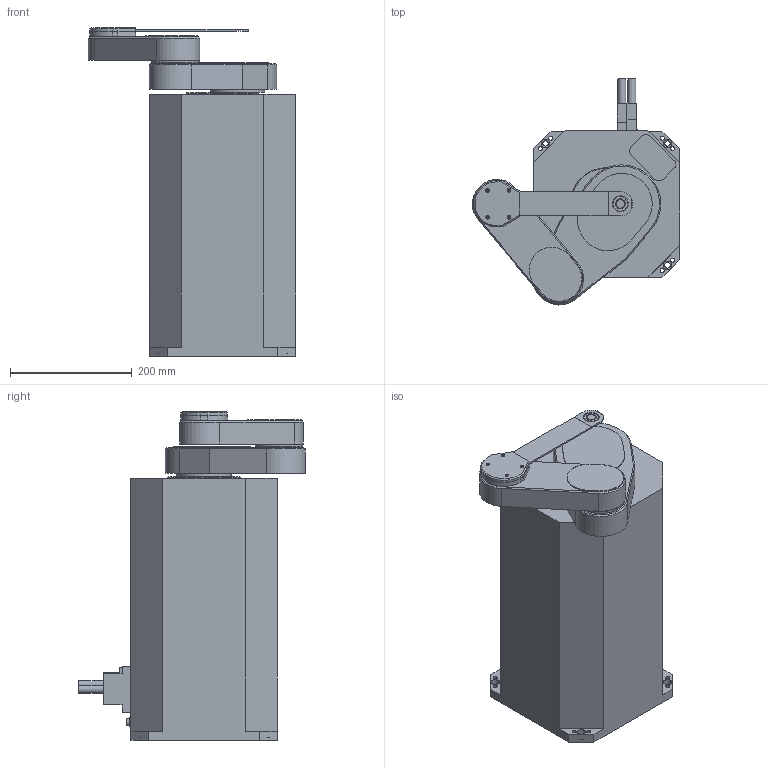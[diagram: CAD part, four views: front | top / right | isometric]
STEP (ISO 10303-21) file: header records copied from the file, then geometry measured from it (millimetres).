
FILE_DESCRIPTION((''),'2;1');
FILE_NAME('C:\Users\a-yamamoto\Desktop\SCR3160CS-300-PM.stp','2011-09-09T08:45:41',('a-yamamoto'),(''),'Autodesk Inventor 2011','Autodesk Inventor 2011','');
FILE_SCHEMA(('AUTOMOTIVE_DESIGN { 1 0 10303 214 1 1 1 1 }'));
Length unit declared in the file: millimetre
Products named in the file (9): SCR3160CS-300-PM; BODY; PIPE; ARM1; ARM2; WRIST-BLOCK; COVER; END-EFFECTOR; CABLE
Assembly tree (8 placements, depth 2):
  SCR3160CS-300-PM
    BODY
    PIPE
    ARM1
    ARM2
    WRIST-BLOCK
    COVER
    END-EFFECTOR
    CABLE
Bounding box: 340 x 371.35 x 539.2 mm (x, y, z)
Volume: 24600052.4 mm3; surface area: 936183.2 mm2
Topology: 9 solids, 9 shells, 282 faces, 680 edges, 452 vertices
Faces by surface type: plane 175, cylinder 95, cone 12
Full cylindrical faces by diameter (mm): 2.459 x5, 3.6 x7, 4 x1, 4.134 x3, 6 x7, 6.647 x8, 9 x4, 10 x1, 12 x2, 13 x2, 14 x5, 16 x1, 24 x1, 26 x1, 36 x1, 50 x2, 51 x1, 59 x1, 65 x1, 71 x1, 78 x1, 89 x1, 119 x2
Entity records: 8081 total; most frequent: DIRECTION 1391, CARTESIAN_POINT 1326, ORIENTED_EDGE 1184, EDGE_CURVE 592, AXIS2_PLACEMENT_3D 502, EDGE_LOOP 439, VERTEX_POINT 429, VECTOR 387
